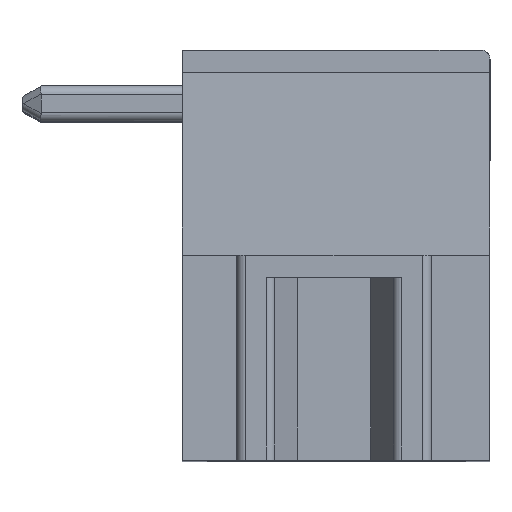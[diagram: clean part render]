
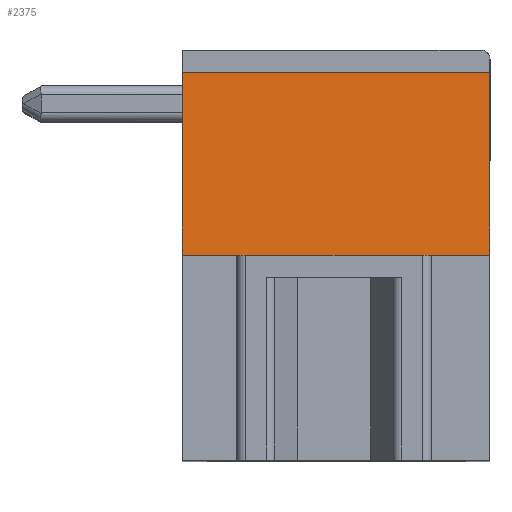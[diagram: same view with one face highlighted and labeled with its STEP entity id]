
A CAD part, top view. The second image highlights one B-rep face of the part: STEP entity #2375.
In plain terms, the highlighted planar face has unit normal (0, 0.073, 0.997).
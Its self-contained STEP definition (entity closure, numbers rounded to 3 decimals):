
#218 = ORIENTED_EDGE ( 'NONE', *, *, #20217, .F. ) ;
#220 = ORIENTED_EDGE ( 'NONE', *, *, #4429, .T. ) ;
#222 = ORIENTED_EDGE ( 'NONE', *, *, #19122, .F. ) ;
#224 = ORIENTED_EDGE ( 'NONE', *, *, #4484, .F. ) ;
#226 = ORIENTED_EDGE ( 'NONE', *, *, #343, .F. ) ;
#232 = EDGE_LOOP ( 'NONE', ( #1492, #220, #218, #222, #226, #224 ) ) ;
#343 = EDGE_CURVE ( 'NONE', #4485, #19115, #20843, .T. ) ;
#1311 = EDGE_CURVE ( 'NONE', #4482, #4430, #22362, .T. ) ;
#1492 = ORIENTED_EDGE ( 'NONE', *, *, #1311, .T. ) ;
#2375 = ADVANCED_FACE ( 'NONE', ( #7171 ), #7170, .T. ) ;
#4427 = VERTEX_POINT ( 'NONE', #11286 ) ;
#4429 = EDGE_CURVE ( 'NONE', #4430, #4427, #10368, .T. ) ;
#4430 = VERTEX_POINT ( 'NONE', #11345 ) ;
#4482 = VERTEX_POINT ( 'NONE', #11384 ) ;
#4484 = EDGE_CURVE ( 'NONE', #4482, #4485, #11383, .T. ) ;
#4485 = VERTEX_POINT ( 'NONE', #11379 ) ;
#7166 = DIRECTION ( 'NONE',  ( 0., -0.997, 0.073 ) ) ;
#7167 = DIRECTION ( 'NONE',  ( 0., 0.073, 0.997 ) ) ;
#7168 = CARTESIAN_POINT ( 'NONE',  ( 6.9, -0.5, -0.3 ) ) ;
#7169 = AXIS2_PLACEMENT_3D ( 'NONE', #7168, #7167, #7166 ) ;
#7170 = PLANE ( 'NONE',  #7169 ) ;
#7171 = FACE_OUTER_BOUND ( 'NONE', #232, .T. ) ;
#10368 = LINE ( 'NONE', #10579, #10786 ) ;
#10579 = CARTESIAN_POINT ( 'NONE',  ( 0., -0.5, -0.3 ) ) ;
#10786 = VECTOR ( 'NONE', #11043, 1000. ) ;
#11043 = DIRECTION ( 'NONE',  ( 0., -0.997, 0.073 ) ) ;
#11286 = CARTESIAN_POINT ( 'NONE',  ( 0., -4.6, 0. ) ) ;
#11345 = CARTESIAN_POINT ( 'NONE',  ( 0., -0.5, -0.3 ) ) ;
#11379 = CARTESIAN_POINT ( 'NONE',  ( 6.9, -4.6, 0. ) ) ;
#11380 = DIRECTION ( 'NONE',  ( 0., -0.997, 0.073 ) ) ;
#11381 = VECTOR ( 'NONE', #11380, 1000. ) ;
#11382 = CARTESIAN_POINT ( 'NONE',  ( 6.9, -0.5, -0.3 ) ) ;
#11383 = LINE ( 'NONE', #11382, #11381 ) ;
#11384 = CARTESIAN_POINT ( 'NONE',  ( 6.9, -0.5, -0.3 ) ) ;
#13740 = VERTEX_POINT ( 'NONE', #25575 ) ;
#19115 = VERTEX_POINT ( 'NONE', #35955 ) ;
#19122 = EDGE_CURVE ( 'NONE', #19115, #13740, #35944, .T. ) ;
#20217 = EDGE_CURVE ( 'NONE', #13740, #4427, #37637, .T. ) ;
#20839 = DIRECTION ( 'NONE',  ( -1., 0., 0. ) ) ;
#20840 = VECTOR ( 'NONE', #20839, 1000. ) ;
#20842 = CARTESIAN_POINT ( 'NONE',  ( 6.9, -4.6, 0. ) ) ;
#20843 = LINE ( 'NONE', #20842, #20840 ) ;
#22355 = DIRECTION ( 'NONE',  ( -1., 0., 0. ) ) ;
#22356 = VECTOR ( 'NONE', #22355, 1000. ) ;
#22357 = CARTESIAN_POINT ( 'NONE',  ( 6.9, -0.5, -0.3 ) ) ;
#22362 = LINE ( 'NONE', #22357, #22356 ) ;
#25575 = CARTESIAN_POINT ( 'NONE',  ( 1.65, -4.6, 0. ) ) ;
#35941 = DIRECTION ( 'NONE',  ( -1., 0., 0. ) ) ;
#35942 = VECTOR ( 'NONE', #35941, 1000. ) ;
#35943 = CARTESIAN_POINT ( 'NONE',  ( 6.9, -4.6, 0. ) ) ;
#35944 = LINE ( 'NONE', #35943, #35942 ) ;
#35955 = CARTESIAN_POINT ( 'NONE',  ( 5.15, -4.6, 0. ) ) ;
#37635 = VECTOR ( 'NONE', #37703, 1000. ) ;
#37636 = CARTESIAN_POINT ( 'NONE',  ( 6.9, -4.6, 0. ) ) ;
#37637 = LINE ( 'NONE', #37636, #37635 ) ;
#37703 = DIRECTION ( 'NONE',  ( -1., 0., 0. ) ) ;
